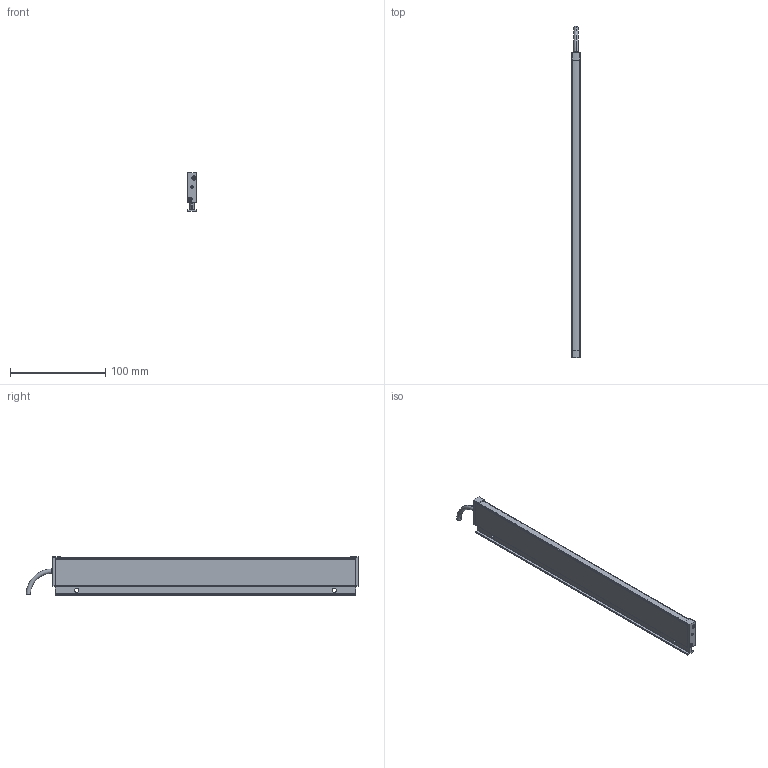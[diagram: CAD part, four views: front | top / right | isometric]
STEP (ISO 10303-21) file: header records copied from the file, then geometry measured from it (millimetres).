
FILE_DESCRIPTION (( 'STEP AP214' ), '1' );
FILE_NAME ('ILG-L-K1-0320mm.STEP', '2017-07-11T07:04:08', ( '' ), ( '' ), 'SwSTEP 2.0', 'SolidWorks 2016', '' );
FILE_SCHEMA (( 'AUTOMOTIVE_DESIGN' ));
Length unit declared in the file: millimetre
Products named in the file (1): ILG-L-K1-0320mm
Bounding box: 9 x 348.25 x 40.71 mm (x, y, z)
Volume: 47674.7 mm3; surface area: 65498.9 mm2
Topology: 9 solids, 9 shells, 428 faces, 1102 edges, 694 vertices
Faces by surface type: plane 205, cylinder 149, cone 64, torus 10
Entity records: 17814 total; most frequent: CARTESIAN_POINT 2373, DIRECTION 2314, ORIENTED_EDGE 2188, EDGE_CURVE 1094, AXIS2_PLACEMENT_3D 843, VERTEX_POINT 694, LINE 628, VECTOR 628
